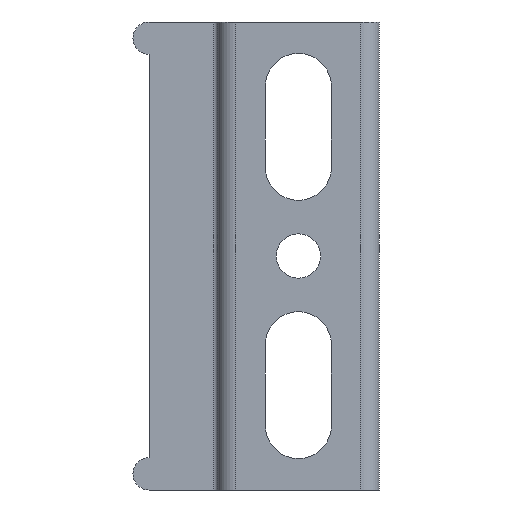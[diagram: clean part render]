
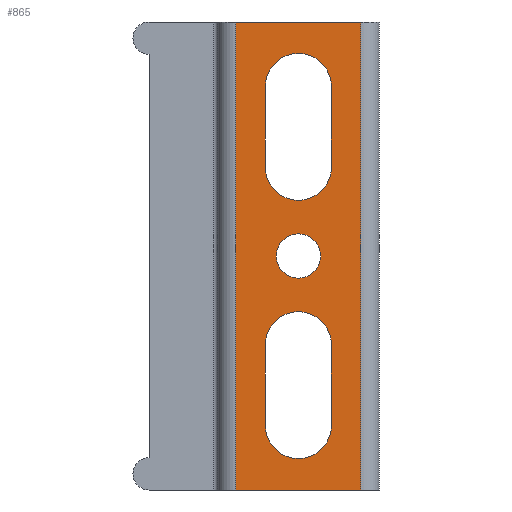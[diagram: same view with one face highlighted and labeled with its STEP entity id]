
A CAD part, left-side view. The second image highlights one B-rep face of the part: STEP entity #865.
In plain terms, the highlighted planar face has unit normal (-1, 0, 0).
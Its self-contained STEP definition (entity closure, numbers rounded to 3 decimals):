
#86 = EDGE_LOOP ( 'NONE', ( #258, #257 ) ) ;
#105 = DIRECTION ( 'NONE',  ( 0., -1., 0. ) ) ;
#110 = LINE ( 'NONE', #118, #1207 ) ;
#118 = CARTESIAN_POINT ( 'NONE',  ( -5.5, 0., -29. ) ) ;
#186 = CARTESIAN_POINT ( 'NONE',  ( -5.5, 5.9, -11. ) ) ;
#192 = CARTESIAN_POINT ( 'NONE',  ( -5.5, 14.1, 11. ) ) ;
#193 = CARTESIAN_POINT ( 'NONE',  ( -5.5, 5.9, 11. ) ) ;
#194 = CARTESIAN_POINT ( 'NONE',  ( -5.5, 14.1, -21. ) ) ;
#195 = CARTESIAN_POINT ( 'NONE',  ( -5.5, 5.9, -21. ) ) ;
#201 = CARTESIAN_POINT ( 'NONE',  ( -5.5, 5.9, 21. ) ) ;
#205 = CARTESIAN_POINT ( 'NONE',  ( -5.5, 2.25, -29. ) ) ;
#210 = CARTESIAN_POINT ( 'NONE',  ( -5.5, 17.75, 29. ) ) ;
#211 = CARTESIAN_POINT ( 'NONE',  ( -5.5, 2.25, 29. ) ) ;
#221 = CARTESIAN_POINT ( 'NONE',  ( -5.5, 17.75, -29. ) ) ;
#228 = CARTESIAN_POINT ( 'NONE',  ( -5.5, 14.1, -11. ) ) ;
#232 = CARTESIAN_POINT ( 'NONE',  ( -5.5, 10., 2.75 ) ) ;
#233 = CARTESIAN_POINT ( 'NONE',  ( -5.5, 10., -2.75 ) ) ;
#235 = CARTESIAN_POINT ( 'NONE',  ( -5.5, 14.1, 21. ) ) ;
#237 = CARTESIAN_POINT ( 'NONE',  ( -5.5, 10., 25.1 ) ) ;
#244 = CARTESIAN_POINT ( 'NONE',  ( -5.5, 10., -6.9 ) ) ;
#248 = ORIENTED_EDGE ( 'NONE', *, *, #885, .T. ) ;
#249 = ORIENTED_EDGE ( 'NONE', *, *, #688, .T. ) ;
#250 = ORIENTED_EDGE ( 'NONE', *, *, #895, .F. ) ;
#251 = ORIENTED_EDGE ( 'NONE', *, *, #876, .F. ) ;
#252 = ORIENTED_EDGE ( 'NONE', *, *, #900, .F. ) ;
#253 = ORIENTED_EDGE ( 'NONE', *, *, #894, .F. ) ;
#254 = ORIENTED_EDGE ( 'NONE', *, *, #893, .F. ) ;
#255 = ORIENTED_EDGE ( 'NONE', *, *, #892, .F. ) ;
#256 = ORIENTED_EDGE ( 'NONE', *, *, #891, .F. ) ;
#257 = ORIENTED_EDGE ( 'NONE', *, *, #1246, .F. ) ;
#258 = ORIENTED_EDGE ( 'NONE', *, *, #890, .F. ) ;
#259 = ORIENTED_EDGE ( 'NONE', *, *, #889, .F. ) ;
#260 = ORIENTED_EDGE ( 'NONE', *, *, #888, .F. ) ;
#261 = ORIENTED_EDGE ( 'NONE', *, *, #1242, .F. ) ;
#262 = ORIENTED_EDGE ( 'NONE', *, *, #887, .F. ) ;
#263 = ORIENTED_EDGE ( 'NONE', *, *, #886, .F. ) ;
#273 = VERTEX_POINT ( 'NONE', #244 ) ;
#279 = VERTEX_POINT ( 'NONE', #237 ) ;
#282 = VERTEX_POINT ( 'NONE', #235 ) ;
#284 = VERTEX_POINT ( 'NONE', #233 ) ;
#285 = VERTEX_POINT ( 'NONE', #232 ) ;
#289 = VERTEX_POINT ( 'NONE', #228 ) ;
#419 = VERTEX_POINT ( 'NONE', #221 ) ;
#431 = VERTEX_POINT ( 'NONE', #211 ) ;
#432 = VERTEX_POINT ( 'NONE', #210 ) ;
#437 = VERTEX_POINT ( 'NONE', #205 ) ;
#441 = VERTEX_POINT ( 'NONE', #201 ) ;
#482 = VERTEX_POINT ( 'NONE', #195 ) ;
#483 = VERTEX_POINT ( 'NONE', #194 ) ;
#484 = VERTEX_POINT ( 'NONE', #193 ) ;
#486 = VERTEX_POINT ( 'NONE', #192 ) ;
#494 = VERTEX_POINT ( 'NONE', #186 ) ;
#522 = EDGE_LOOP ( 'NONE', ( #256, #255, #254, #253, #252 ) ) ;
#526 = EDGE_LOOP ( 'NONE', ( #251, #250, #249, #248 ) ) ;
#529 = EDGE_LOOP ( 'NONE', ( #263, #262, #261, #260, #259 ) ) ;
#552 = AXIS2_PLACEMENT_3D ( 'NONE', #942, #943, #944 ) ;
#554 = CIRCLE ( 'NONE', #552, 4.1 ) ;
#561 = AXIS2_PLACEMENT_3D ( 'NONE', #921, #922, #923 ) ;
#562 = VECTOR ( 'NONE', #925, 1000. ) ;
#563 = CIRCLE ( 'NONE', #561, 4.1 ) ;
#564 = AXIS2_PLACEMENT_3D ( 'NONE', #916, #917, #918 ) ;
#565 = VECTOR ( 'NONE', #919, 1000. ) ;
#566 = AXIS2_PLACEMENT_3D ( 'NONE', #911, #912, #913 ) ;
#567 = VECTOR ( 'NONE', #927, 1000. ) ;
#568 = CIRCLE ( 'NONE', #566, 2.75 ) ;
#569 = AXIS2_PLACEMENT_3D ( 'NONE', #905, #906, #907 ) ;
#570 = VECTOR ( 'NONE', #908, 1000. ) ;
#571 = CIRCLE ( 'NONE', #564, 4.1 ) ;
#572 = AXIS2_PLACEMENT_3D ( 'NONE', #1315, #1316, #1317 ) ;
#573 = VECTOR ( 'NONE', #1319, 1000. ) ;
#574 = CIRCLE ( 'NONE', #572, 4.1 ) ;
#575 = VECTOR ( 'NONE', #1313, 1000. ) ;
#581 = CIRCLE ( 'NONE', #569, 4.1 ) ;
#593 = AXIS2_PLACEMENT_3D ( 'NONE', #747, #737, #752 ) ;
#601 = VECTOR ( 'NONE', #1286, 1000. ) ;
#688 = EDGE_CURVE ( 'NONE', #419, #437, #110, .T. ) ;
#737 = DIRECTION ( 'NONE',  ( -1., 0., 0. ) ) ;
#742 = FACE_BOUND ( 'NONE', #86, .T. ) ;
#746 = FACE_BOUND ( 'NONE', #529, .T. ) ;
#747 = CARTESIAN_POINT ( 'NONE',  ( -5.5, 0., -29. ) ) ;
#749 = FACE_BOUND ( 'NONE', #522, .T. ) ;
#750 = FACE_OUTER_BOUND ( 'NONE', #526, .T. ) ;
#751 = PLANE ( 'NONE',  #593 ) ;
#752 = DIRECTION ( 'NONE',  ( 0., 0., 1. ) ) ;
#778 = DIRECTION ( 'NONE',  ( -1., 0., 0. ) ) ;
#818 = AXIS2_PLACEMENT_3D ( 'NONE', #1121, #1122, #1123 ) ;
#828 = CIRCLE ( 'NONE', #835, 4.1 ) ;
#835 = AXIS2_PLACEMENT_3D ( 'NONE', #1033, #778, #1114 ) ;
#837 = CIRCLE ( 'NONE', #818, 2.75 ) ;
#865 = ADVANCED_FACE ( 'NONE', ( #746, #742, #749, #750 ), #751, .T. ) ;
#876 = EDGE_CURVE ( 'NONE', #432, #431, #1280, .T. ) ;
#885 = EDGE_CURVE ( 'NONE', #437, #431, #1311, .T. ) ;
#886 = EDGE_CURVE ( 'NONE', #486, #484, #574, .T. ) ;
#887 = EDGE_CURVE ( 'NONE', #282, #486, #1291, .T. ) ;
#888 = EDGE_CURVE ( 'NONE', #441, #279, #581, .T. ) ;
#889 = EDGE_CURVE ( 'NONE', #484, #441, #1318, .T. ) ;
#890 = EDGE_CURVE ( 'NONE', #285, #284, #568, .T. ) ;
#891 = EDGE_CURVE ( 'NONE', #494, #273, #571, .T. ) ;
#892 = EDGE_CURVE ( 'NONE', #482, #494, #910, .T. ) ;
#893 = EDGE_CURVE ( 'NONE', #483, #482, #563, .T. ) ;
#894 = EDGE_CURVE ( 'NONE', #289, #483, #914, .T. ) ;
#895 = EDGE_CURVE ( 'NONE', #419, #432, #920, .T. ) ;
#900 = EDGE_CURVE ( 'NONE', #273, #289, #554, .T. ) ;
#905 = CARTESIAN_POINT ( 'NONE',  ( -5.5, 10., 21. ) ) ;
#906 = DIRECTION ( 'NONE',  ( -1., 0., 0. ) ) ;
#907 = DIRECTION ( 'NONE',  ( 0., 0., -1. ) ) ;
#908 = DIRECTION ( 'NONE',  ( 0., 0., 1. ) ) ;
#909 = CARTESIAN_POINT ( 'NONE',  ( -5.5, 5.9, -21. ) ) ;
#910 = LINE ( 'NONE', #909, #565 ) ;
#911 = CARTESIAN_POINT ( 'NONE',  ( -5.5, 10., 0. ) ) ;
#912 = DIRECTION ( 'NONE',  ( -1., 0., 0. ) ) ;
#913 = DIRECTION ( 'NONE',  ( 0., 0., 1. ) ) ;
#914 = LINE ( 'NONE', #915, #562 ) ;
#915 = CARTESIAN_POINT ( 'NONE',  ( -5.5, 14.1, -11. ) ) ;
#916 = CARTESIAN_POINT ( 'NONE',  ( -5.5, 10., -11. ) ) ;
#917 = DIRECTION ( 'NONE',  ( -1., 0., 0. ) ) ;
#918 = DIRECTION ( 'NONE',  ( 0., 0., 1. ) ) ;
#919 = DIRECTION ( 'NONE',  ( 0., 0., 1. ) ) ;
#920 = LINE ( 'NONE', #926, #567 ) ;
#921 = CARTESIAN_POINT ( 'NONE',  ( -5.5, 10., -21. ) ) ;
#922 = DIRECTION ( 'NONE',  ( -1., 0., 0. ) ) ;
#923 = DIRECTION ( 'NONE',  ( 0., 0., 1. ) ) ;
#925 = DIRECTION ( 'NONE',  ( 0., 0., -1. ) ) ;
#926 = CARTESIAN_POINT ( 'NONE',  ( -5.5, 17.75, -29. ) ) ;
#927 = DIRECTION ( 'NONE',  ( 0., 0., 1. ) ) ;
#942 = CARTESIAN_POINT ( 'NONE',  ( -5.5, 10., -11. ) ) ;
#943 = DIRECTION ( 'NONE',  ( -1., 0., 0. ) ) ;
#944 = DIRECTION ( 'NONE',  ( 0., 0., 1. ) ) ;
#1033 = CARTESIAN_POINT ( 'NONE',  ( -5.5, 10., 21. ) ) ;
#1114 = DIRECTION ( 'NONE',  ( 0., 0., -1. ) ) ;
#1121 = CARTESIAN_POINT ( 'NONE',  ( -5.5, 10., 0. ) ) ;
#1122 = DIRECTION ( 'NONE',  ( -1., 0., 0. ) ) ;
#1123 = DIRECTION ( 'NONE',  ( 0., 0., 1. ) ) ;
#1207 = VECTOR ( 'NONE', #105, 1000. ) ;
#1242 = EDGE_CURVE ( 'NONE', #279, #282, #828, .T. ) ;
#1246 = EDGE_CURVE ( 'NONE', #284, #285, #837, .T. ) ;
#1279 = CARTESIAN_POINT ( 'NONE',  ( -5.5, 0., 29. ) ) ;
#1280 = LINE ( 'NONE', #1279, #601 ) ;
#1281 = CARTESIAN_POINT ( 'NONE',  ( -5.5, 14.1, 11. ) ) ;
#1286 = DIRECTION ( 'NONE',  ( 0., -1., 0. ) ) ;
#1291 = LINE ( 'NONE', #1281, #573 ) ;
#1311 = LINE ( 'NONE', #1312, #575 ) ;
#1312 = CARTESIAN_POINT ( 'NONE',  ( -5.5, 2.25, -29. ) ) ;
#1313 = DIRECTION ( 'NONE',  ( 0., 0., 1. ) ) ;
#1314 = CARTESIAN_POINT ( 'NONE',  ( -5.5, 5.9, 21. ) ) ;
#1315 = CARTESIAN_POINT ( 'NONE',  ( -5.5, 10., 11. ) ) ;
#1316 = DIRECTION ( 'NONE',  ( -1., 0., 0. ) ) ;
#1317 = DIRECTION ( 'NONE',  ( 0., 0., -1. ) ) ;
#1318 = LINE ( 'NONE', #1314, #570 ) ;
#1319 = DIRECTION ( 'NONE',  ( 0., 0., -1. ) ) ;
